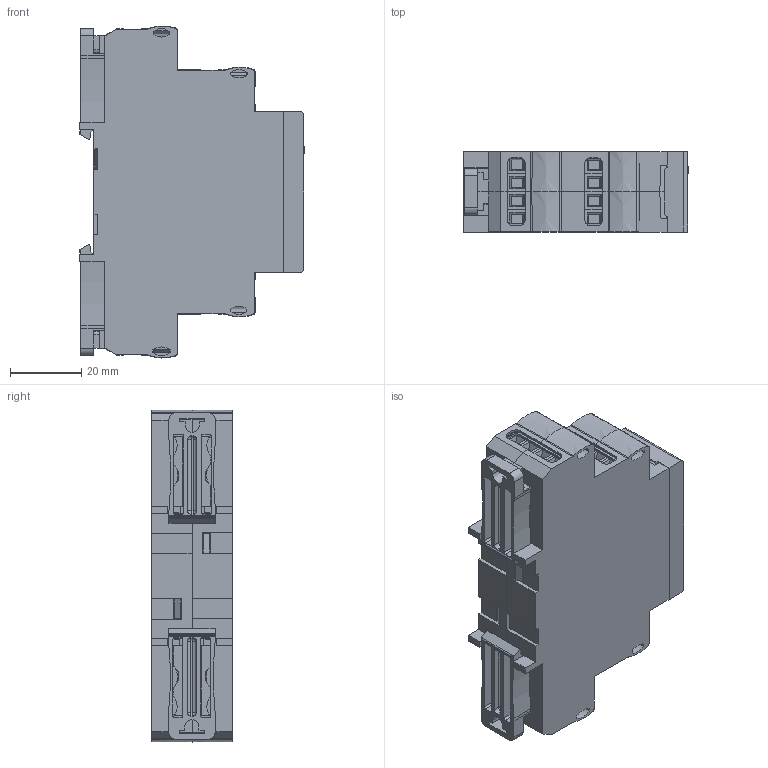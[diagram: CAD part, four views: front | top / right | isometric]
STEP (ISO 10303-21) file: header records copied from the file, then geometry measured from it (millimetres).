
FILE_DESCRIPTION(('STEP AP203'), '1');
FILE_NAME('ﾑ碚濱ﾌﾐﾏ-4-1', '', ('UNSPECIFIED'), ('UNSPECIFIED'), 'ASCON STEP Converter 1.6', 'ASCON Math Kernel', '');
FILE_SCHEMA(('CONFIG_CONTROL_DESIGN'));
Length unit declared in the file: millimetre
Products named in the file (16): Case13-18-23mm_2step_Half_v01a_Build20140909_1552_11.25mm
Assembly tree (22 placements, depth 3):
  (unnamed)
    Case13-18-23mm_2step_Half_v01a_Build20140909_1552_11.25mm
    (unnamed)  x2
    Case13-18-23mm_2step_Half_v01a_Build20140909_1552_11.25mm
    (unnamed)  x4
      (unnamed)
    (unnamed)
    (unnamed)
    (unnamed)
    (unnamed)
    (unnamed)
    (unnamed)
    (unnamed)
    (unnamed)
    (unnamed)
    (unnamed)
Bounding box: 63 x 22.51 x 92.99 mm (x, y, z)
Volume: 29387.9 mm3; surface area: 47751.8 mm2
Topology: 285 solids, 285 shells, 11526 faces, 32499 edges, 21573 vertices
Faces by surface type: plane 8847, extrusion 2388, cylinder 250, cone 24, sphere 8, torus 5, bspline 4
Full cylindrical faces by diameter (mm): 1.238 x16, 2.1 x2, 3.9 x16
Entity records: 440618 total; most frequent: CARTESIAN_POINT 84359, ORIENTED_EDGE 60520, DIRECTION 44777, EDGE_CURVE 30260, VECTOR 27459, LINE 25071, VERTEX_POINT 20157, COLOUR_RGB 10916
